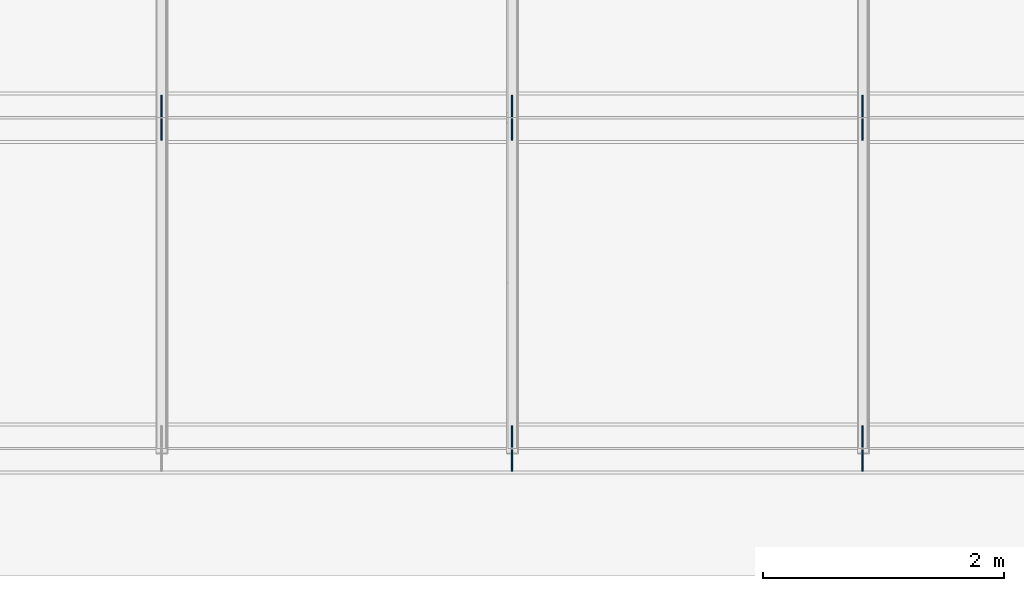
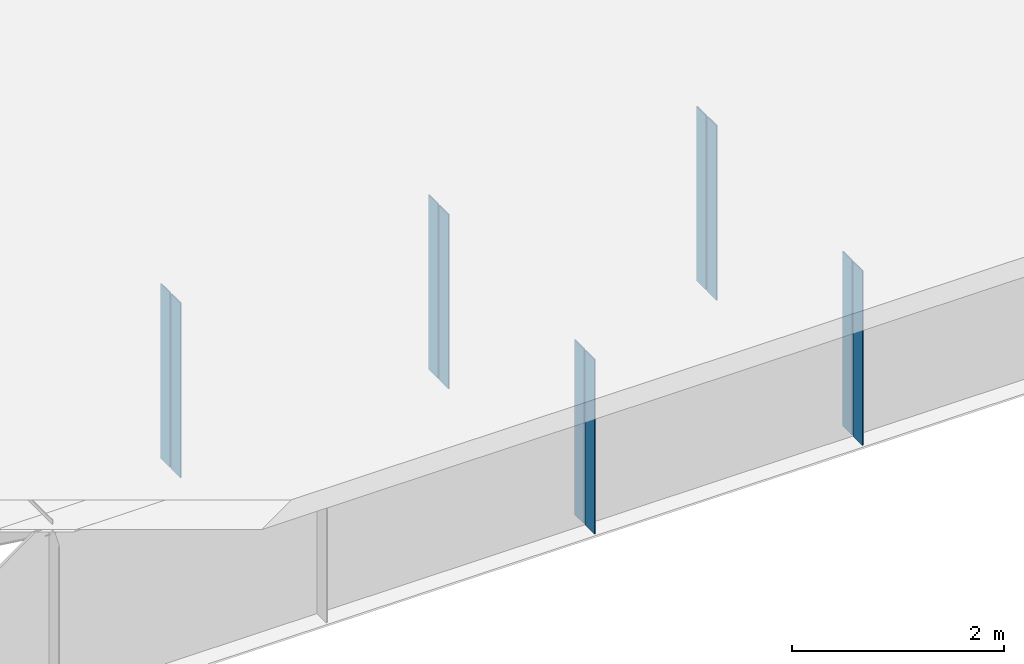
# One storey, part 8 of 13: 10 plates.
"""IFC4 building model written with IfcOpenShell, lengths in metres."""

from ifc_helpers import new_model, si_unit, frame, origin, origin_with_axes, origin_2d_with_axis, place, context, subcontext, project, spatial, rectangle, extrude, element, save


model = new_model("IFC4")

# Units and contexts
model_context = context("Model", 3, precision=1e-05, world=origin())
body_context = subcontext(model_context, "Body", "Model", "MODEL_VIEW")
ifc_project = project(units=[si_unit("LENGTHUNIT", "METRE"), si_unit("AREAUNIT", "SQUARE_METRE"), si_unit("VOLUMEUNIT", "CUBIC_METRE"), si_unit("PLANEANGLEUNIT", "RADIAN")], contexts=[model_context])

# Site, building, storey
site_placement = place(None, origin_with_axes())
site = spatial("IfcSite", under=ifc_project, at=site_placement, Name="Default Site")
building_placement = place(site_placement, origin_with_axes())
building = spatial("IfcBuilding", under=site, at=building_placement, Name="Bridge Structure")
storey_placement = place(building_placement, origin_with_axes())
storey = spatial("IfcBuildingStorey", under=building, at=storey_placement, Name="Superstructure")

# Plates
for number, where, z_axis, x_axis, name in (
    (1, (20.412, -4.02675, -1.005), (0.0, 0.0, 1.0), (1.0, 0.0, 0.0), "Intermediate Stiffener 1"),
    (2, (20.412, -4.22325, -1.005), (0.0, 0.0, 1.0), (1.0, 0.0, 0.0), "Intermediate Stiffener 1"),
    (3, (23.328, -4.02675, -1.005), (0.0, 0.0, 1.0), (1.0, 0.0, 0.0), "Intermediate Stiffener 1"),
    (4, (23.328, -4.22325, -1.005), (0.0, 0.0, 1.0), (1.0, 0.0, 0.0), "Intermediate Stiffener 1"),
    (5, (17.496, -1.27675, -1.005), (0.0, 0.0, 1.0), (1.0, 0.0, 0.0), "Intermediate Stiffener 2"),
    (6, (17.496, -1.47325, -1.005), (0.0, 0.0, 1.0), (1.0, 0.0, 0.0), "Intermediate Stiffener 2"),
    (7, (20.412, -1.27675, -1.005), (0.0, 0.0, 1.0), (1.0, 0.0, 0.0), "Intermediate Stiffener 2"),
    (8, (20.412, -1.47325, -1.005), (0.0, 0.0, 1.0), (1.0, 0.0, 0.0), "Intermediate Stiffener 2"),
    (9, (23.328, -1.27675, -1.005), (0.0, 0.0, 1.0), (1.0, 0.0, 0.0), "Intermediate Stiffener 2"),
    (10, (23.328, -1.47325, -1.005), (0.0, 0.0, 1.0), (1.0, 0.0, 0.0), "Intermediate Stiffener 2"),
):
    element("IfcPlate", number, at=place(storey_placement, frame(where, z_axis=z_axis, x_axis=x_axis)), inside=storey, Name=name, context=body_context, shape_type="SweptSolid", body=[
        extrude(rectangle(XDim=0.012, YDim=0.1785, at=origin_2d_with_axis()), origin_with_axes(), (0.0, 0.0, 1.0), 2.01),
    ])

save(model, "model.ifc")
